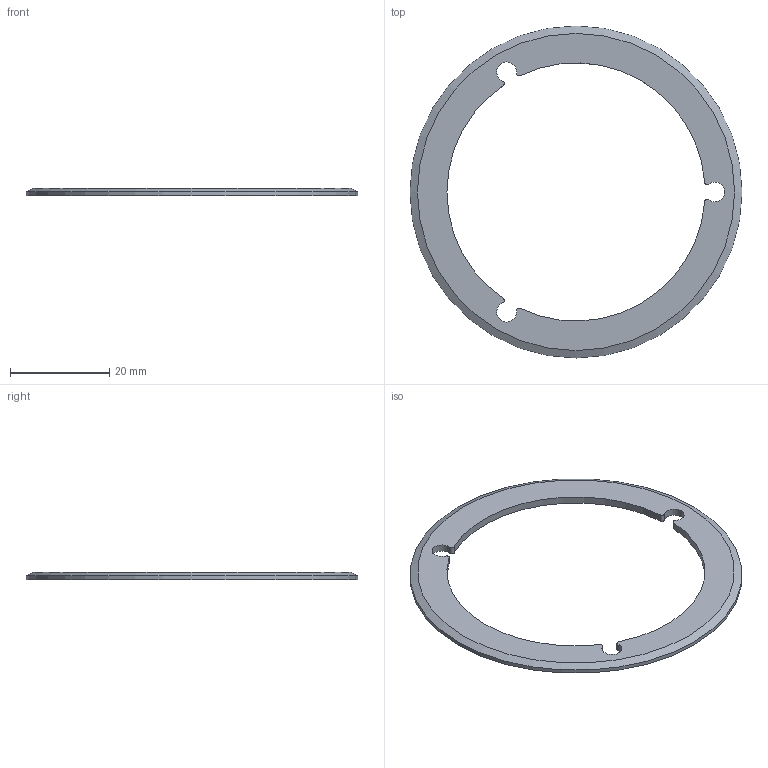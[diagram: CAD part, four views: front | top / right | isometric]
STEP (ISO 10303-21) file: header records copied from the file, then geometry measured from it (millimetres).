
FILE_DESCRIPTION(/* description */ ('CAx-IF Rec.Pracs.---Representation and Presentation of Product Manufacturing Information (PMI)---4.0---2014-10-13','CAx-IF Rec.Pracs.---3D Tessellated Geometry---0.4---2014-09-14','2;1'),/* implementation_level */ '2;1');
FILE_NAME(/* name */ 'qc1_p61',/* time_stamp */ '2026-07-26T03:21:18+03:00',/* author */ (''),/* organization */ (''),/* preprocessor_version */ 'ST-DEVELOPER v19.4',/* originating_system */ 'SIEMENS PLM Software NX2306.1700',/* authorisation */ $);
FILE_SCHEMA (('AP242_MANAGED_MODEL_BASED_3D_ENGINEERING_MIM_LF { 1 0 10303 442 3 1 4 }'));
Length unit declared in the file: millimetre
Products named in the file (1): qc1_p61
Bounding box: 67 x 67 x 1.5 mm (x, y, z)
Volume: 1914.6 mm3; surface area: 3180.3 mm2
Topology: 1 solids, 1 shells, 16 faces, 41 edges, 27 vertices
Faces by surface type: cylinder 13, plane 2, cone 1
Full cylindrical faces by diameter (mm): 67 x1
Entity records: 520 total; most frequent: DIRECTION 100, CARTESIAN_POINT 83, ORIENTED_EDGE 78, AXIS2_PLACEMENT_3D 44, EDGE_CURVE 39, VERTEX_POINT 27, CIRCLE 27, EDGE_LOOP 20
